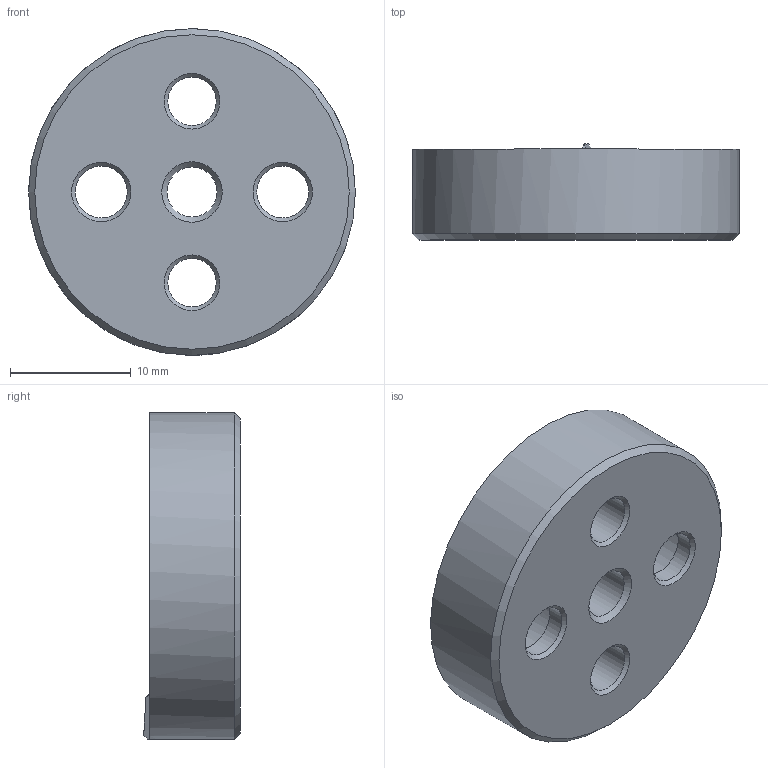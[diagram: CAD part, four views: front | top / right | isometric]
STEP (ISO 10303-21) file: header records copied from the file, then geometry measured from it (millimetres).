
FILE_DESCRIPTION( ( 'STEP AP203' ), '1' );
FILE_NAME( 'C:/Temp/Ganter_Step_05_03_2020/data/3_2/gn187_4/gn187_4_st/Serrated locking plate GN 187.4-27-48-A-ST.stp', '2020-03-13T05:25:31', ( 'License CC BY-ND 4.0' ), ( 'CADENAS' ), ' ', 'PARTsolutions', ' ' );
FILE_SCHEMA( ( 'CONFIG_CONTROL_DESIGN' ) );
Length unit declared in the file: millimetre
Products named in the file (1): _Serrated locking plate GN 187.4-27-48-A-ST
Bounding box: 27 x 7.98 x 27 mm (x, y, z)
Volume: 3163.2 mm3; surface area: 2213.3 mm2
Topology: 1 solids, 1 shells, 36 faces, 94 edges, 60 vertices
Faces by surface type: cone 15, cylinder 12, plane 9
Full cylindrical faces by diameter (mm): 4 x2, 4.134 x1, 4.3 x2, 8.1 x2, 27 x1
Entity records: 1152 total; most frequent: CARTESIAN_POINT 286, DIRECTION 178, ORIENTED_EDGE 146, AXIS2_PLACEMENT_3D 84, EDGE_CURVE 73, EDGE_LOOP 63, VERTEX_POINT 56, FACE_OUTER_BOUND 44
